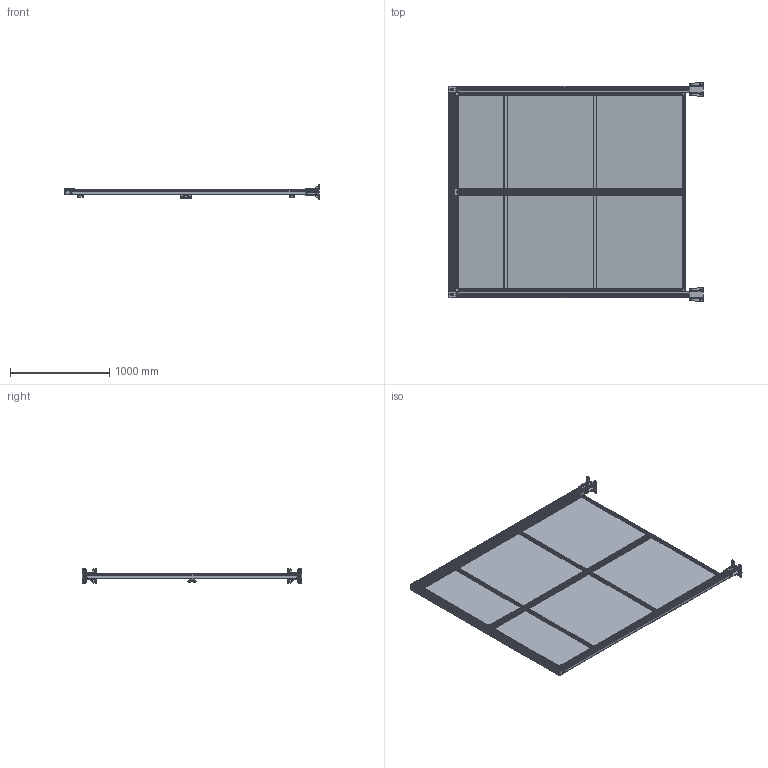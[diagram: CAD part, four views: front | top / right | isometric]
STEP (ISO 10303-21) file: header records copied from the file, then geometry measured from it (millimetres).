
FILE_DESCRIPTION(/* description */ (''),/* implementation_level */ '2;1');
FILE_NAME(/* name */ 'Z:\Marketing\fastline\Porta ad anta doppia H=2500.stp',/* time_stamp */ '2021-10-15T15:05:02+02:00',/* author */ ('mpistoia'),/* organization */ (''),/* preprocessor_version */ 'ST-DEVELOPER v17.2',/* originating_system */ 'Autodesk Inventor 2019',/* authorisation */ '');
FILE_SCHEMA (('AUTOMOTIVE_DESIGN { 1 0 10303 214 3 1 1 }'));
Products named in the file (1): Porta ad anta doppia H=2500
Bounding box: 2563 x 2214.13 x 146.95 mm (x, y, z)
Volume: 22941989.4 mm3; surface area: 18061502 mm2
Topology: 9 solids, 24 shells, 5165 faces, 13941 edges, 8808 vertices
Faces by surface type: plane 3113, cylinder 1610, sphere 184, cone 114, torus 84, bspline 60
Full cylindrical faces by diameter (mm): 3.2 x8, 4.5 x10, 6.35 x4, 6.647 x8, 7 x28, 7.5 x16, 8 x32, 8.5 x2, 9.5 x8, 11 x8, 11.63 x8, 13 x16, 13.2 x16, 14 x2, 18 x4, 21 x6
Entity records: 166263 total; most frequent: CARTESIAN_POINT 34015, DIRECTION 28004, ORIENTED_EDGE 27834, EDGE_CURVE 13917, AXIS2_PLACEMENT_3D 9435, LINE 9134, VECTOR 9134, VERTEX_POINT 8808
